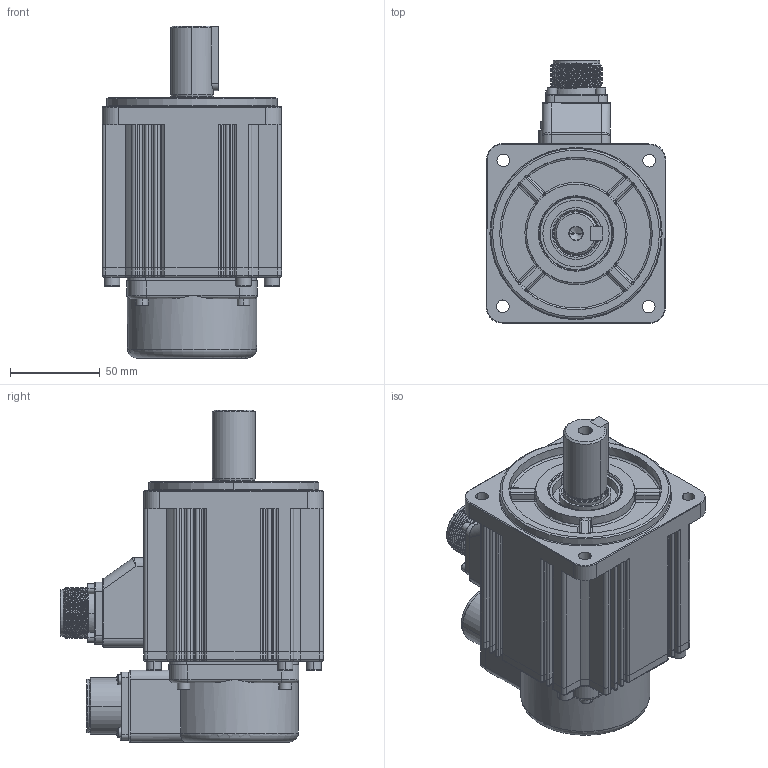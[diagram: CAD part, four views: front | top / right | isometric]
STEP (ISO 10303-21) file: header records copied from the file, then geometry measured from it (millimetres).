
FILE_DESCRIPTION((''),'2;1');
FILE_NAME('IMS20B-10M10C30C-00_ASM','2025-05-20T12:23:34',('admin'),(''),'CREO PARAMETRIC BY PTC INC, 2019080','CREO PARAMETRIC BY PTC INC, 2019080','');
FILE_SCHEMA(('CONFIG_CONTROL_DESIGN'));
Products named in the file (19): 100_JIKE_10C_L32_9_1; 50051-00115_1_1; 18-A6-18FLANGE-CUSTOM-3D_1_1; ISO4762-M3X30-8_8_2_1; 100_DZZJ_10C_ASM_3_ASM_1_ASM; 100-1KW_ZHOU_L32_11_1; 100_HDG_2_1; 100_ZZZJ_10C_ASM_1_ASM_1_ASM; 100_FHZ_1_1; CMS3102A20-29PE9-A-3D_1_1; ISO7045-M3X16-4_8_1_1; ISO4762-M4X16-8_8_1_1; 100_FHZ_ASM_1_ASM_1_ASM; ISO4762-M5X16-8_8_1_1; 13000_1_1; IMS20B-10M10C30C_ASM_5_ASM_1_ASM; IMS20B-10M10C30C-00_ASM_1_ASM; C; IMS20B-10M10C30C-00_ASM
Assembly tree (30 placements, depth 5):
  IMS20B-10M10C30C-00_ASM
    IMS20B-10M10C30C-00_ASM_1_ASM
      IMS20B-10M10C30C_ASM_5_ASM_1_ASM
        100_DZZJ_10C_ASM_3_ASM_1_ASM
          100_JIKE_10C_L32_9_1
          50051-00115_1_1
          18-A6-18FLANGE-CUSTOM-3D_1_1
          ISO4762-M3X30-8_8_2_1  x4
        100_ZZZJ_10C_ASM_1_ASM_1_ASM
          100-1KW_ZHOU_L32_11_1
          100_HDG_2_1
        100_FHZ_ASM_1_ASM_1_ASM
          100_FHZ_1_1
          CMS3102A20-29PE9-A-3D_1_1
          ISO7045-M3X16-4_8_1_1  x4
          ISO4762-M4X16-8_8_1_1  x4
        ISO4762-M5X16-8_8_1_1  x4
        13000_1_1
    C
Bounding box: 100.24 x 146.75 x 185 mm (x, y, z)
Volume: 1200694.8 mm3; surface area: 181057.2 mm2
Topology: 25 solids, 63 shells, 4224 faces, 11526 edges, 7552 vertices
Faces by surface type: plane 2044, cylinder 907, extrusion 812, torus 207, cone 137, sphere 77, bspline 40
Entity records: 137644 total; most frequent: CARTESIAN_POINT 38317, ORIENTED_EDGE 21558, DIRECTION 18380, EDGE_CURVE 10825, VECTOR 7316, VERTEX_POINT 7162, LINE 6504, AXIS2_PLACEMENT_3D 5532
